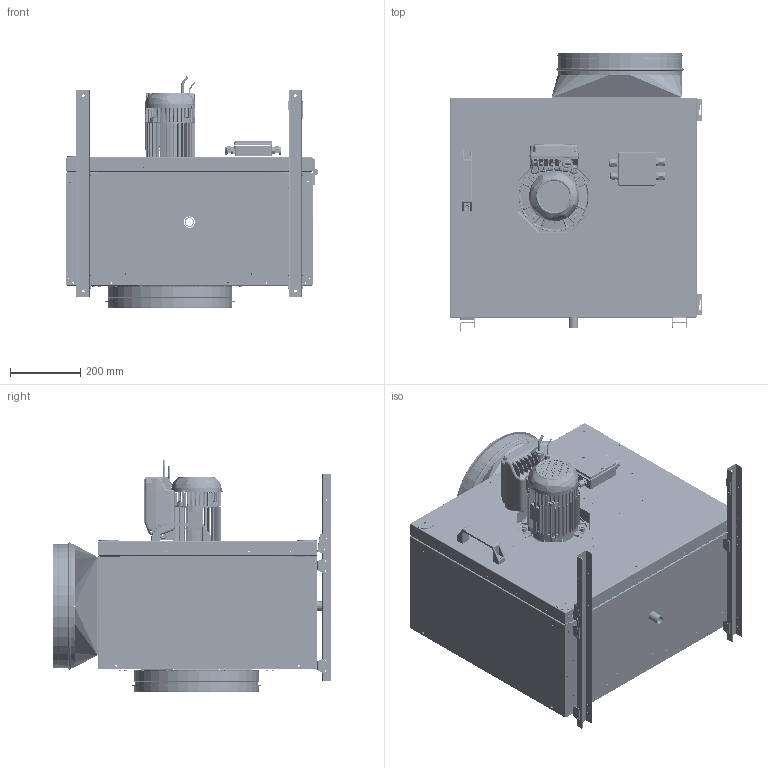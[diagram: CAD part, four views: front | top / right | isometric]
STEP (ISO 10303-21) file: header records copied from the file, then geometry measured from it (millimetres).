
FILE_DESCRIPTION (( 'STEP AP203' ), '1' );
FILE_NAME ('149313-00_MPS315EC30_step.step', '2018-10-24T10:21:40', ( '' ), ( '' ), 'SwSTEP 2.0', 'SolidWorks 2017', '' );
FILE_SCHEMA (( 'CONFIG_CONTROL_DESIGN' ));
Products named in the file (1): 149313-00_MPS315EC30_step
Bounding box: 715.37 x 790.34 x 658.15 mm (x, y, z)
Surface area: 7646272.1 mm2 (no closed solid volume)
Topology: 0 solids, 278 shells, 3110 faces, 13657 edges, 10387 vertices
Faces by surface type: plane 1216, cylinder 1181, bspline 408, cone 189, torus 116
Entity records: 167588 total; most frequent: CARTESIAN_POINT 62442, DIRECTION 20837, ORIENTED_EDGE 18651, EDGE_CURVE 13637, VERTEX_POINT 10387, AXIS2_PLACEMENT_3D 7201, LINE 6435, VECTOR 6435
